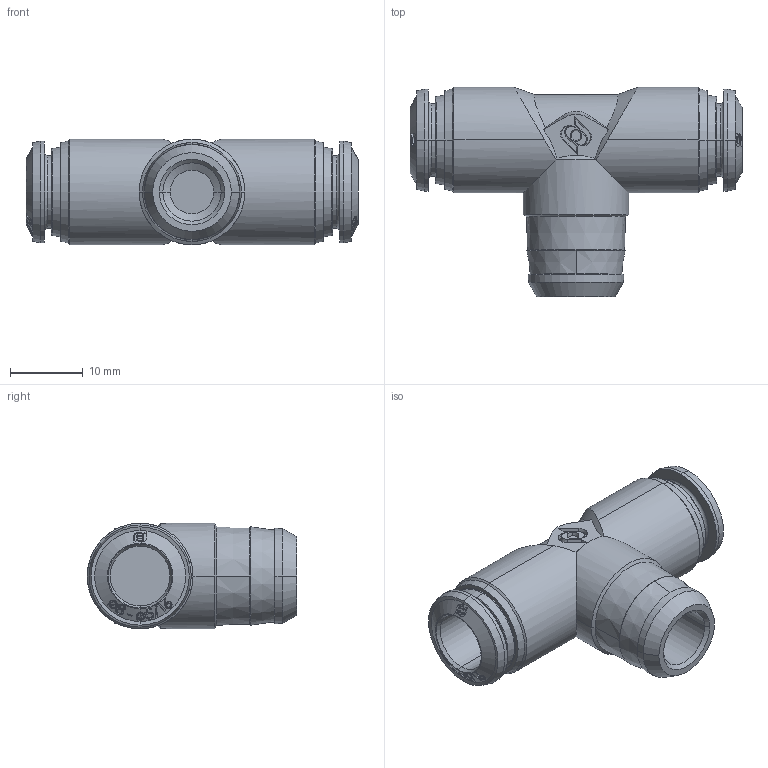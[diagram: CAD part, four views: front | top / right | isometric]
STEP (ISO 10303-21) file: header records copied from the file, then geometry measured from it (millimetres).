
FILE_DESCRIPTION (( 'STEP AP214' ), '1' );
FILE_NAME ('5020000005.step', '2012-10-01T16:47:40', ( '' ), ( '' ), 'SwSTEP 2.0', 'SolidWorks 2012', '' );
FILE_SCHEMA (( 'AUTOMOTIVE_DESIGN' ));
Length unit declared in the file: millimetre
Products named in the file (1): 5020000005
Bounding box: 45.6 x 28.75 x 14.5 mm (x, y, z)
Volume: 7588.8 mm3; surface area: 4696.3 mm2
Topology: 2 solids, 4 shells, 443 faces, 1130 edges, 738 vertices
Faces by surface type: bspline 226, cone 114, plane 46, cylinder 45, torus 12
Entity records: 30402 total; most frequent: CARTESIAN_POINT 16790, ORIENTED_EDGE 2260, EDGE_CURVE 1130, DIRECTION 986, B_SPLINE_CURVE_WITH_KNOTS 762, VERTEX_POINT 738, EDGE_LOOP 492, UNCERTAINTY_MEASURE_WITH_UNIT 447
